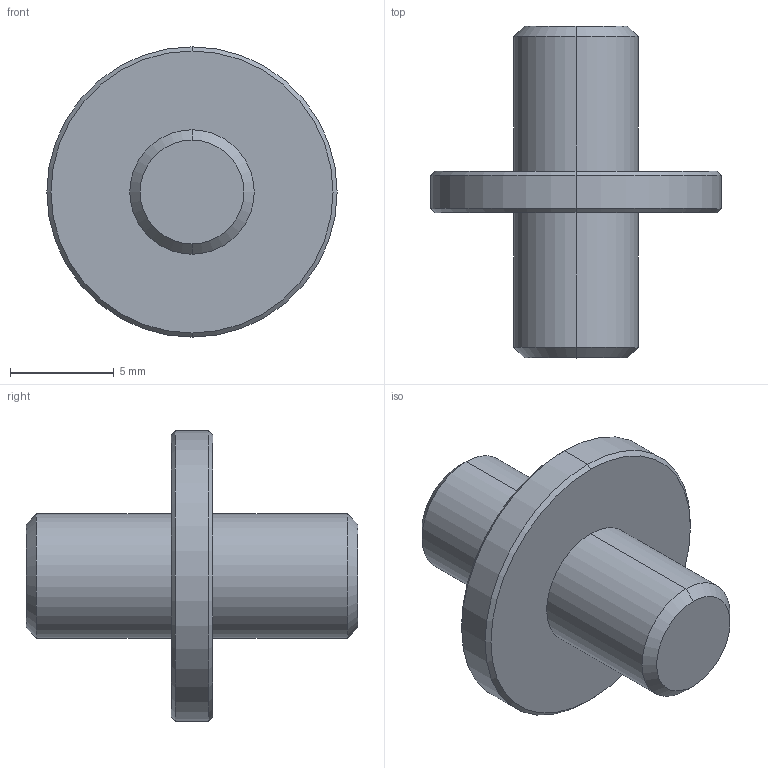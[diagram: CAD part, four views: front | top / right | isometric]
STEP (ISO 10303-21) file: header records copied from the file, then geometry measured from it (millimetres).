
FILE_DESCRIPTION (( 'STEP AP203' ), '1' );
FILE_NAME ('ACSF-M6-M6.step', '2019-05-09T08:54:18', ( '' ), ( '' ), 'SwSTEP 2.0', 'SolidWorks 2016', '' );
FILE_SCHEMA (( 'CONFIG_CONTROL_DESIGN' ));
Length unit declared in the file: millimetre
Products named in the file (1): ACSF-M6-M6
Bounding box: 14 x 16 x 14 mm (x, y, z)
Volume: 697.5 mm3; surface area: 637.6 mm2
Topology: 1 solids, 1 shells, 18 faces, 34 edges, 20 vertices
Faces by surface type: cone 8, cylinder 6, plane 4
Entity records: 531 total; most frequent: DIRECTION 92, CARTESIAN_POINT 73, ORIENTED_EDGE 68, AXIS2_PLACEMENT_3D 39, EDGE_CURVE 34, EDGE_LOOP 20, CIRCLE 20, VERTEX_POINT 20
